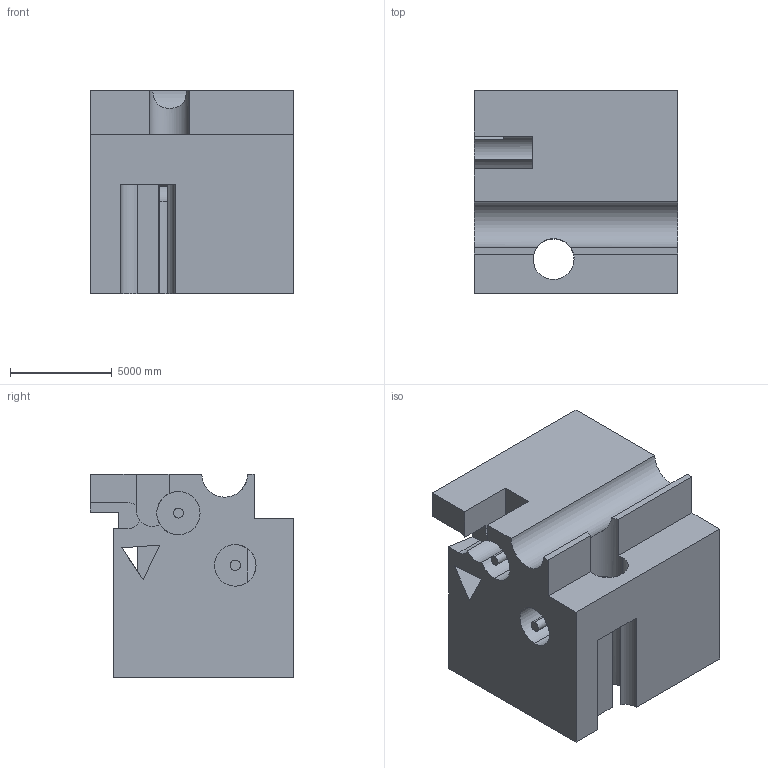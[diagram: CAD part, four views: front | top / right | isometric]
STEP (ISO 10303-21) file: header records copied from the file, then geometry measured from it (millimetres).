
FILE_DESCRIPTION (( 'STEP AP203' ), '1' );
FILE_NAME ('1918.STEP', '2022-08-23T09:28:12', ( 'user' ), ( '' ), 'SwSTEP 2.0', 'SolidWorks 2021', '' );
FILE_SCHEMA (( 'CONFIG_CONTROL_DESIGN' ));
Length unit declared in the file: centimetre
Products named in the file (1): 1918
Bounding box: 10000 x 10000 x 10000 mm (x, y, z)
Volume: 693039481567.5 mm3; surface area: 708099339.7 mm2
Topology: 1 solids, 1 shells, 48 faces, 137 edges, 92 vertices
Faces by surface type: plane 30, cylinder 18
Entity records: 2299 total; most frequent: CARTESIAN_POINT 916, DIRECTION 274, ORIENTED_EDGE 274, EDGE_CURVE 137, VERTEX_POINT 92, AXIS2_PLACEMENT_3D 92, VECTOR 90, LINE 90
